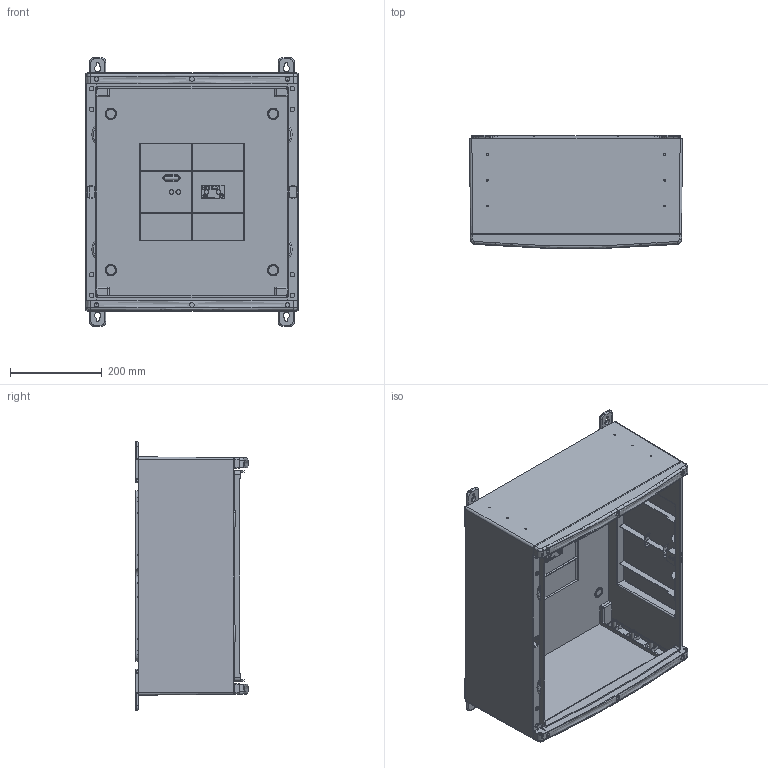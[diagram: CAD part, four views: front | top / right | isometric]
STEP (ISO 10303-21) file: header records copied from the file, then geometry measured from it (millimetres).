
FILE_DESCRIPTION(/* description */ (''),/* implementation_level */ '2;1');
FILE_NAME(/* name */ '4005122.stp',/* time_stamp */ '2019-03-01T17:21:45+01:00',/* author */ (''),/* organization */ (''),/* preprocessor_version */ 'ST-DEVELOPER v16.7',/* originating_system */ 'SIEMENS PLM Software NX 12.0',/* authorisation */ '');
FILE_SCHEMA (('AUTOMOTIVE_DESIGN { 1 0 10303 214 3 1 1 1 }'));
Products named in the file (1): bsom23CC53FBq58j
Bounding box: 463.5 x 245.7 x 585.5 mm (x, y, z)
Volume: 3011071.4 mm3; surface area: 2001789.5 mm2
Topology: 39 solids, 39 shells, 4100 faces, 10314 edges, 6522 vertices
Faces by surface type: plane 2261, cylinder 940, bspline 330, torus 250, sphere 128, extrusion 117, cone 74
Full cylindrical faces by diameter (mm): 3 x18, 3.4 x2, 3.75 x12, 4 x24, 4.2 x6, 4.5 x16, 5.2 x12, 5.6 x4, 6.1 x6, 7.2 x12, 7.4 x6, 7.5 x24, 7.6 x6, 8 x8, 8.2 x6, 8.333 x1, 8.5 x16, 9 x12, 9.5 x16, 9.8 x14, 10 x13, 10.2 x8, 11 x8, 12.2 x2, 14.8 x4, 18.2 x4, 18.3 x4, 22 x4, 23.5 x4
Entity records: 146621 total; most frequent: CARTESIAN_POINT 39937, ORIENTED_EDGE 19418, DIRECTION 18925, EDGE_CURVE 9709, AXIS2_PLACEMENT_3D 6492, VERTEX_POINT 6367, VECTOR 5941, LINE 5824
